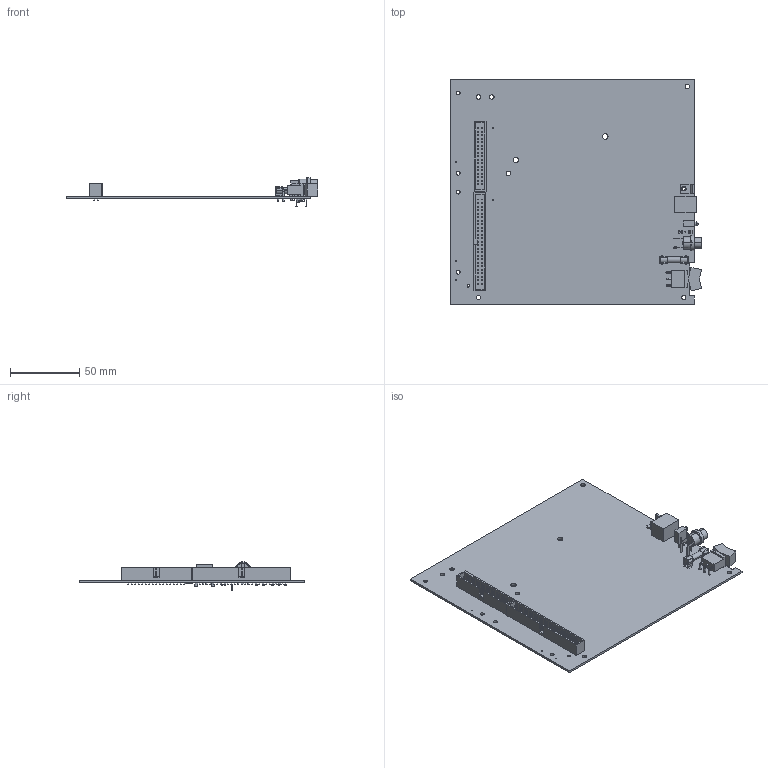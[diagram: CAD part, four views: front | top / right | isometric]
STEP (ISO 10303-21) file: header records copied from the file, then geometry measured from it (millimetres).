
FILE_DESCRIPTION((''),'2;1');
FILE_NAME('CU_USB_OEM_6281','2011-08-15T',('dkendric'),(''),'PRO/ENGINEER BY PARAMETRIC TECHNOLOGY CORPORATION, 2010230','PRO/ENGINEER BY PARAMETRIC TECHNOLOGY CORPORATION, 2010230','');
FILE_SCHEMA(('CONFIG_CONTROL_DESIGN'));
Length unit declared in the file: inch
Products named in the file (1): CU_USB_OEM_6281
Bounding box: 181.99 x 162.56 x 20.88 mm (x, y, z)
Volume: 55949.8 mm3; surface area: 69119.8 mm2
Topology: 1 solids, 1 shells, 1301 faces, 3246 edges, 2137 vertices
Faces by surface type: plane 1117, cylinder 168, torus 12, sphere 4
Entity records: 38404 total; most frequent: CARTESIAN_POINT 6719, ORIENTED_EDGE 6484, DIRECTION 6248, EDGE_CURVE 3242, VECTOR 2822, LINE 2822, VERTEX_POINT 2140, AXIS2_PLACEMENT_3D 1713
